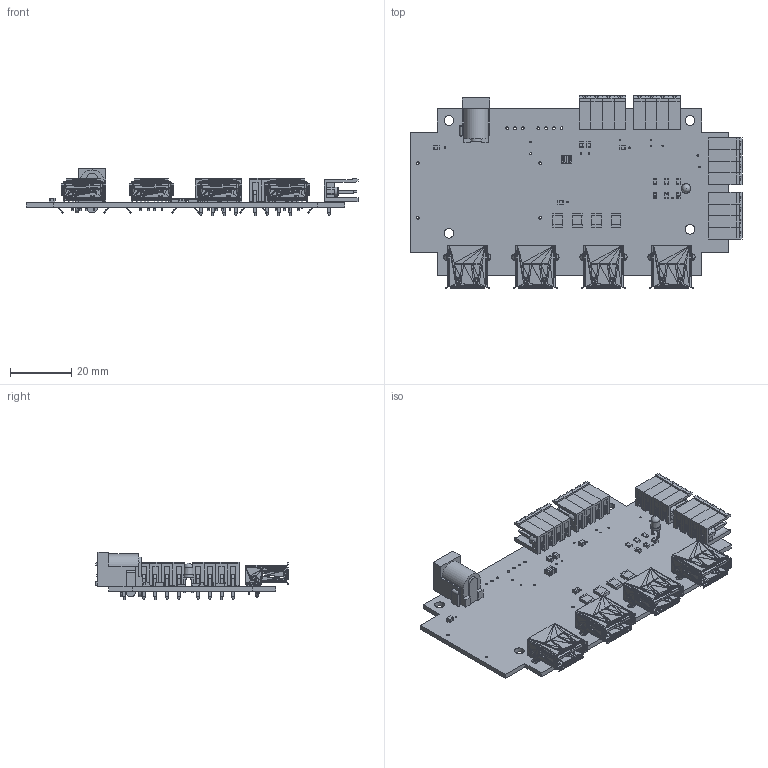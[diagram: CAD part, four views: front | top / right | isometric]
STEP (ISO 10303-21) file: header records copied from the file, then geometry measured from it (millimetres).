
FILE_DESCRIPTION(('for SolidWorks'),'2;1');
FILE_NAME( 'C:\Users\dave\Dropbox\Projects\Power Board\powerboard.step', '2020-02-09T12:43:40',('dave'),(''),'Open CASCADE STEP processor 6.6', 'DipTrace','Unknown');
FILE_SCHEMA(('AUTOMOTIVE_DESIGN { 1 0 10303 214 1 1 1 1 }'));
Length unit declared in the file: millimetre
Products named in the file (11): PCB_powerboard; Board_powerboard; cap_0805; dio_0805; led-3r_green; res_1813; 4840-2211; tbh-1x4h_3.81_2sh15x11; ind_1210; res_0805; 292303-1
Assembly tree (27 placements, depth 2):
  PCB_powerboard
    Board_powerboard
    cap_0805  x5
    dio_0805  x3
    led-3r_green
    res_1813  x4
    4840-2211
    tbh-1x4h_3.81_2sh15x11  x4
    ind_1210
    res_0805  x3
    292303-1  x4
Bounding box: 108.46 x 63 x 15.42 mm (x, y, z)
Volume: 9501.7 mm3; surface area: 25171.1 mm2
Topology: 19 solids, 55 shells, 10602 faces, 18381 edges, 7769 vertices
Faces by surface type: plane 10358, cylinder 199, torus 27, cone 17, sphere 1
Full cylindrical faces by diameter (mm): 0.486 x14, 0.889 x13, 0.92 x16, 1.2 x16, 2 x1, 2.3 x8, 2.983 x16, 3.12 x1, 3.175 x4, 3.2 x1, 6 x1
Entity records: 86272 total; most frequent: DIRECTION 11614, CARTESIAN_POINT 10701, ORIENTED_EDGE 10654, EDGE_CURVE 5332, LINE 4962, VECTOR 4962, AXIS2_PLACEMENT_3D 3326, FACE_BOUND 3092
